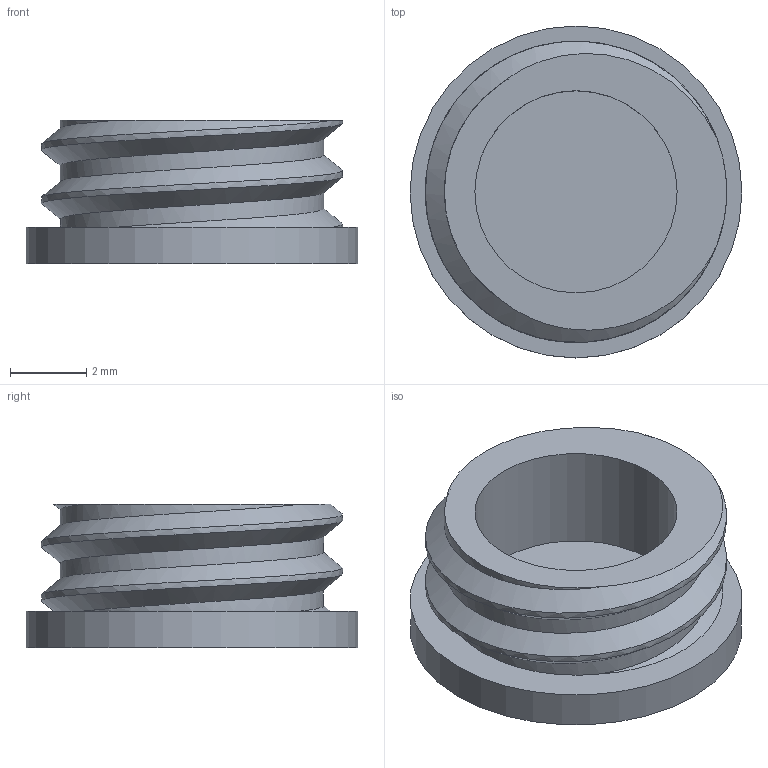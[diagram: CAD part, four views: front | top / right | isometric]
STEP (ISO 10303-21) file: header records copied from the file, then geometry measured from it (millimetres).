
FILE_DESCRIPTION(('Open CASCADE Model'),'2;1');
FILE_NAME('Open CASCADE Shape Model','2026-10-02T16:54:50',('Author'),( 'Open CASCADE'),'Open CASCADE STEP processor 7.9','Open CASCADE 7.9' ,'Unknown');
FILE_SCHEMA(('AUTOMOTIVE_DESIGN { 1 0 10303 214 1 1 1 1 }'));
Length unit declared in the file: millimetre
Products named in the file (1): Open CASCADE STEP translator 7.9 2
Bounding box: 8.7 x 8.7 x 3.76 mm (x, y, z)
Volume: 111.3 mm3; surface area: 282.8 mm2
Topology: 1 solids, 1 shells, 17 faces, 36 edges, 24 vertices
Faces by surface type: plane 9, cylinder 5, bspline 3
Full cylindrical faces by diameter (mm): 5.3 x1, 6.9 x1, 8.7 x1
Entity records: 2841 total; most frequent: CARTESIAN_POINT 2145, DIRECTION 105, ORIENTED_EDGE 72, PCURVE 72, DEFINITIONAL_REPRESENTATION 72, LINE 58, VECTOR 58, B_SPLINE_CURVE_WITH_KNOTS 38
